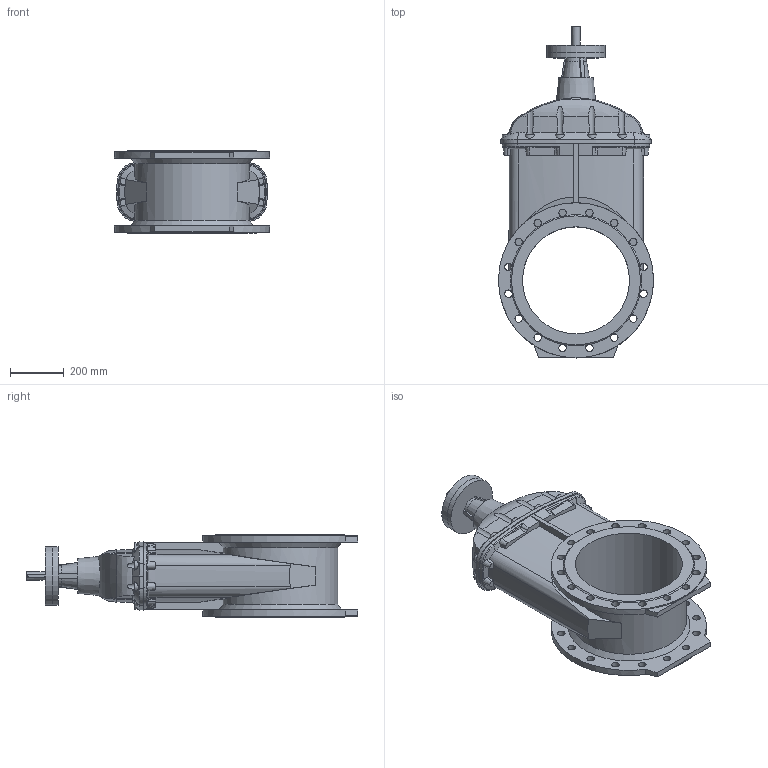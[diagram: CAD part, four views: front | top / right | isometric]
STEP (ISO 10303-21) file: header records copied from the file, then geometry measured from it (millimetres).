
FILE_DESCRIPTION (( 'STEP AP203' ), '1' );
FILE_NAME ('O_15_40_DN400_X0X_AA0.step', '2017-03-10T08:04:50', ( 'Windows User' ), ( 'AVK' ), 'SwSTEP 2.0', 'SolidWorks 2012', '' );
FILE_SCHEMA (( 'CONFIG_CONTROL_DESIGN' ));
Length unit declared in the file: millimetre
Products named in the file (1): O_15_40_DN400_X0X_AA0
Bounding box: 580 x 1241 x 310 mm (x, y, z)
Volume: 61485105.8 mm3; surface area: 2263602.5 mm2
Topology: 1 solids, 1 shells, 341 faces, 1037 edges, 680 vertices
Faces by surface type: plane 117, cone 88, cylinder 74, bspline 33, torus 29
Full cylindrical faces by diameter (mm): 18 x4, 28 x32, 30 x1, 220 x2, 400 x1, 580 x2
Entity records: 17474 total; most frequent: CARTESIAN_POINT 8974, ORIENTED_EDGE 1898, DIRECTION 1555, EDGE_CURVE 949, AXIS2_PLACEMENT_3D 659, VERTEX_POINT 638, EDGE_LOOP 435, FACE_OUTER_BOUND 383
